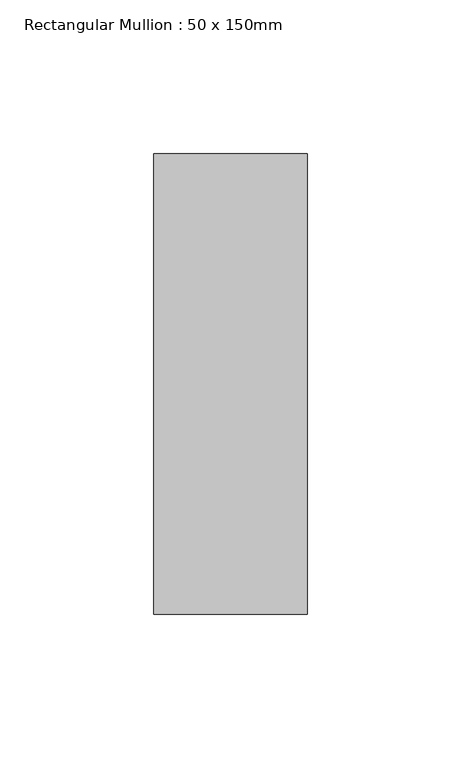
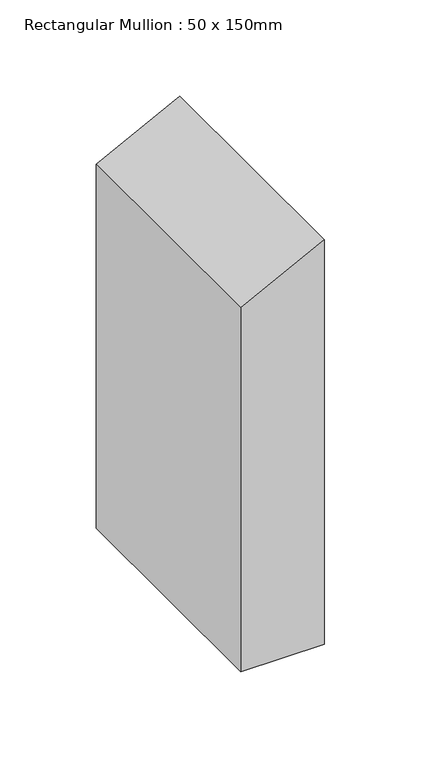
"""IFC4 building model written with IfcOpenShell, lengths in millimetres: member geometry, Rectangular Mullion : 50 x 150mm."""

from ifc_helpers import new_model, si_unit, frame, origin, place, context, project, spatial, polyline, outline, extrude, source, transform, mapped, element, save


def rectangular_mullion_50_x_150mm_80d9c774(model_context):
    return source(origin(), model_context, "Body", "SweptSolid", [
        extrude(outline(polyline([(0.0, 0.0), (-25.4762725, -50.0), (-256.1458346, -50.0), (-256.1458346, 0.0), (0.0, 0.0)])), frame((0.0, -75.0, 0.0), z_axis=(0.0, 1.0, 0.0), x_axis=(0.0, 0.0, 1.0)), (0.0, 0.0, 1.0), 150.0),
    ])


if __name__ == "__main__":
    model = new_model("IFC4")
    model_context = context("Model", 3, world=origin())
    ifc_project = project(units=[si_unit("LENGTHUNIT", "METRE", prefix="MILLI")], contexts=[model_context])
    site = spatial("IfcSite", under=ifc_project)
    building = spatial("IfcBuilding", under=site)
    placement = place(None, origin())
    rectangular_mullion_50_x_150mm_shape = rectangular_mullion_50_x_150mm_80d9c774(model_context)
    element("IfcMember", 1, ObjectType="Rectangular Mullion : 50 x 150mm", at=placement, inside=building, context=model_context, shape_type="MappedRepresentation", body=[
        mapped(rectangular_mullion_50_x_150mm_shape, transform((0.0, 0.0, 0.0), x_axis=(1.0, 0.0, 0.0), y_axis=(0.0, 1.0, 0.0), z_axis=(0.0, 0.0, 1.0))),
    ])
    save(model, "model.ifc")
